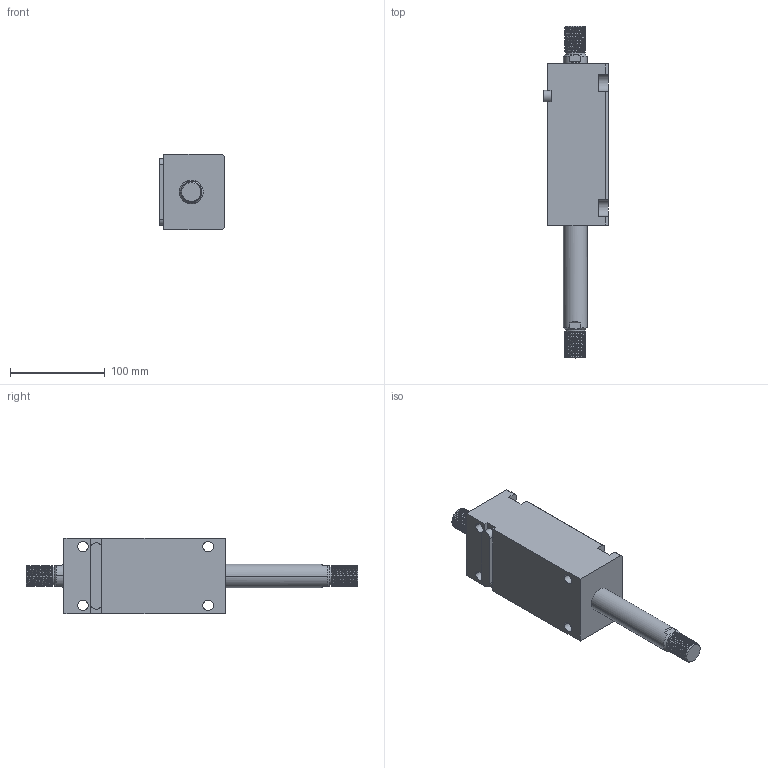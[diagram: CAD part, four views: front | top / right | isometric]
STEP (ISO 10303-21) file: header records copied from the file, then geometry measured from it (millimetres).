
FILE_DESCRIPTION (( 'STEP AP214' ), '1' );
FILE_NAME ('chtb-lw40x100w_asm.STEP', '2018-06-04T10:59:25', ( 'Windows' ), ( 'Microsoft' ), 'SwSTEP 2.0', 'SolidWorks 2015', '' );
FILE_SCHEMA (( 'AUTOMOTIVE_DESIGN' ));
Length unit declared in the file: millimetre
Products named in the file (5): CHTB-SW40X100NHSG; CHTB-SD40QG; CHTB-LW40X100NBT; CHTB-LA40PJ; chtb-lw40x100w_asm
Assembly tree (4 placements, depth 2):
  chtb-lw40x100w_asm
    CHTB-LA40PJ
    CHTB-LW40X100NBT
    CHTB-SD40QG
    CHTB-SW40X100NHSG
Bounding box: 68.5 x 350 x 80 mm (x, y, z)
Volume: 837033.6 mm3; surface area: 133889.5 mm2
Topology: 4 solids, 4 shells, 258 faces, 711 edges, 473 vertices
Faces by surface type: cylinder 152, plane 59, bspline 18, cone 17, torus 12
Entity records: 17539 total; most frequent: CARTESIAN_POINT 11292, ORIENTED_EDGE 1410, DIRECTION 1124, EDGE_CURVE 705, VERTEX_POINT 473, AXIS2_PLACEMENT_3D 433, EDGE_LOOP 292, LINE 258
